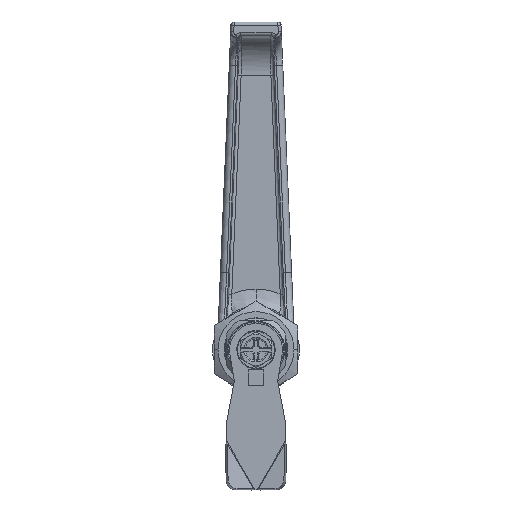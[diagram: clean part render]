
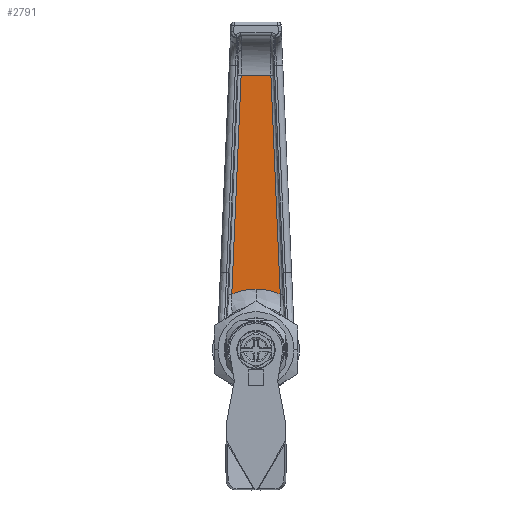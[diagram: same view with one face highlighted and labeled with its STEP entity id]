
A CAD part, front view. The second image highlights one B-rep face of the part: STEP entity #2791.
In plain terms, the highlighted planar face has unit normal (0, -1, 0).
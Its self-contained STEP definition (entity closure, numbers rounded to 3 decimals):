
#634 = CARTESIAN_POINT ( 'NONE',  ( -7.796, 29., 17.874 ) ) ;
#1128 = CARTESIAN_POINT ( 'NONE',  ( -2.669, 29., 19.363 ) ) ;
#1599 = CARTESIAN_POINT ( 'NONE',  ( -7.796, 29., 17.874 ) ) ;
#1955 = B_SPLINE_CURVE_WITH_KNOTS ( 'NONE', 3,
 ( #8686, #15307, #10028, #1128, #11364, #2653 ),
 .UNSPECIFIED., .F., .F.,
 ( 4, 2, 4 ),
 ( 0., 0.5, 1. ),
 .UNSPECIFIED. ) ;
#2176 = AXIS2_PLACEMENT_3D ( 'NONE', #7059, #6857, #6801 ) ;
#2653 = CARTESIAN_POINT ( 'NONE',  ( 0., 29., 19.5 ) ) ;
#2791 = ADVANCED_FACE ( 'NONE', ( #6025 ), #7902, .F. ) ;
#2800 = EDGE_LOOP ( 'NONE', ( #9173, #9178, #9192, #16815, #9227 ) ) ;
#3242 = CARTESIAN_POINT ( 'NONE',  ( 0., 29., 88.387 ) ) ;
#3270 = EDGE_CURVE ( 'NONE', #15255, #5336, #6372, .T. ) ;
#5336 = VERTEX_POINT ( 'NONE', #8002 ) ;
#5563 = VERTEX_POINT ( 'NONE', #6839 ) ;
#6025 = FACE_OUTER_BOUND ( 'NONE', #2800, .T. ) ;
#6206 = CARTESIAN_POINT ( 'NONE',  ( 0., 29., 19.5 ) ) ;
#6372 = B_SPLINE_CURVE_WITH_KNOTS ( 'NONE', 3,
 ( #10512, #10564, #10622, #10408, #10353, #10296 ),
 .UNSPECIFIED., .F., .F.,
 ( 4, 2, 4 ),
 ( 0., 0.5, 1. ),
 .UNSPECIFIED. ) ;
#6544 = CARTESIAN_POINT ( 'NONE',  ( 4.789, 29., 88.387 ) ) ;
#6801 = DIRECTION ( 'NONE',  ( 0., 0., 1. ) ) ;
#6839 = CARTESIAN_POINT ( 'NONE',  ( -4.789, 29., 88.387 ) ) ;
#6857 = DIRECTION ( 'NONE',  ( 0., 1., 0. ) ) ;
#7003 = VERTEX_POINT ( 'NONE', #6544 ) ;
#7059 = CARTESIAN_POINT ( 'NONE',  ( 0., 29., 0. ) ) ;
#7747 = CARTESIAN_POINT ( 'NONE',  ( 4.789, 29., 88.387 ) ) ;
#7902 = PLANE ( 'NONE',  #2176 ) ;
#8002 = CARTESIAN_POINT ( 'NONE',  ( 7.796, 29., 17.874 ) ) ;
#8686 = CARTESIAN_POINT ( 'NONE',  ( -7.796, 29., 17.874 ) ) ;
#9173 = ORIENTED_EDGE ( 'NONE', *, *, #14431, .T. ) ;
#9178 = ORIENTED_EDGE ( 'NONE', *, *, #3270, .T. ) ;
#9192 = ORIENTED_EDGE ( 'NONE', *, *, #13144, .F. ) ;
#9227 = ORIENTED_EDGE ( 'NONE', *, *, #13499, .F. ) ;
#9411 = VECTOR ( 'NONE', #10476, 1000. ) ;
#9465 = LINE ( 'NONE', #1599, #9411 ) ;
#10028 = CARTESIAN_POINT ( 'NONE',  ( -5.295, 29., 18.815 ) ) ;
#10296 = CARTESIAN_POINT ( 'NONE',  ( 7.796, 29., 17.874 ) ) ;
#10353 = CARTESIAN_POINT ( 'NONE',  ( 6.567, 29., 18.41 ) ) ;
#10408 = CARTESIAN_POINT ( 'NONE',  ( 5.295, 29., 18.815 ) ) ;
#10476 = DIRECTION ( 'NONE',  ( 0.043, 0., 0.999 ) ) ;
#10512 = CARTESIAN_POINT ( 'NONE',  ( 0., 29., 19.5 ) ) ;
#10564 = CARTESIAN_POINT ( 'NONE',  ( 1.342, 29., 19.5 ) ) ;
#10622 = CARTESIAN_POINT ( 'NONE',  ( 2.669, 29., 19.363 ) ) ;
#11364 = CARTESIAN_POINT ( 'NONE',  ( -1.342, 29., 19.5 ) ) ;
#11454 = VECTOR ( 'NONE', #17007, 1000. ) ;
#11462 = LINE ( 'NONE', #7747, #11454 ) ;
#11799 = VERTEX_POINT ( 'NONE', #634 ) ;
#12064 = EDGE_CURVE ( 'NONE', #5563, #7003, #14095, .T. ) ;
#13144 = EDGE_CURVE ( 'NONE', #7003, #5336, #11462, .T. ) ;
#13499 = EDGE_CURVE ( 'NONE', #11799, #5563, #9465, .T. ) ;
#13953 = VECTOR ( 'NONE', #17142, 1000. ) ;
#14095 = LINE ( 'NONE', #3242, #13953 ) ;
#14431 = EDGE_CURVE ( 'NONE', #11799, #15255, #1955, .T. ) ;
#15255 = VERTEX_POINT ( 'NONE', #6206 ) ;
#15307 = CARTESIAN_POINT ( 'NONE',  ( -6.566, 29., 18.41 ) ) ;
#16815 = ORIENTED_EDGE ( 'NONE', *, *, #12064, .F. ) ;
#17007 = DIRECTION ( 'NONE',  ( 0.043, 0., -0.999 ) ) ;
#17142 = DIRECTION ( 'NONE',  ( 1., 0., 0. ) ) ;
